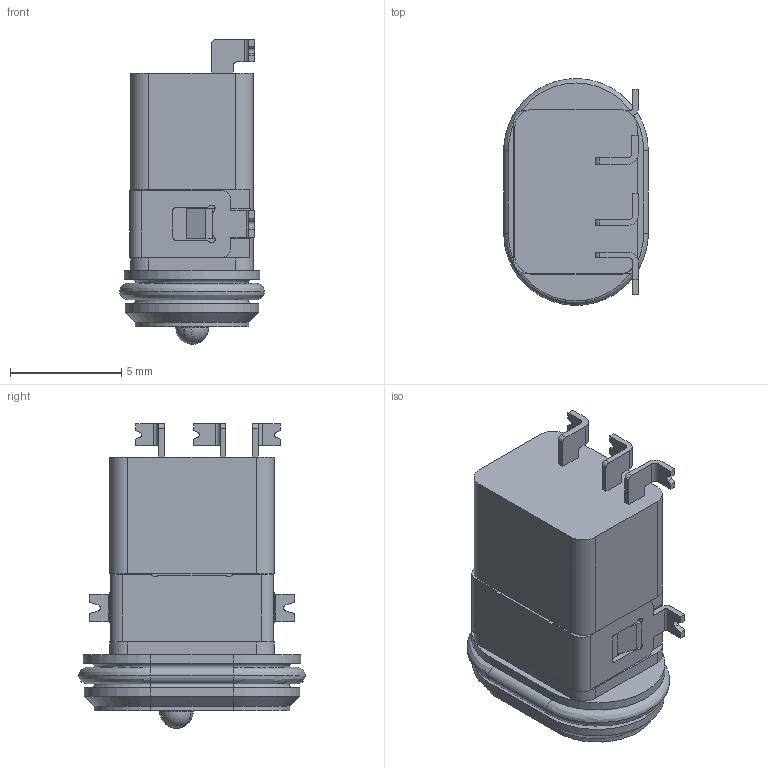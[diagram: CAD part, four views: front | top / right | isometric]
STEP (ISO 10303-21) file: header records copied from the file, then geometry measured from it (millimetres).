
FILE_DESCRIPTION((''),'2;1');
FILE_NAME('ASM0001_ASM','2020-11-04T',('Administrator'),(''),'PRO/ENGINEER BY PARAMETRIC TECHNOLOGY CORPORATION, 2010280','PRO/ENGINEER BY PARAMETRIC TECHNOLOGY CORPORATION, 2010280','');
FILE_SCHEMA(('CONFIG_CONTROL_DESIGN'));
Length unit declared in the file: millimetre
Products named in the file (3): 1DC-067AZP-207_0629; 1DC-067AZG-695Z; ASM0001_ASM
Assembly tree (2 placements, depth 2):
  ASM0001_ASM
    1DC-067AZP-207_0629
    1DC-067AZG-695Z
Bounding box: 6.5 x 10.19 x 13.7 mm (x, y, z)
Volume: 376.5 mm3; surface area: 743 mm2
Topology: 2 solids, 2 shells, 249 faces, 695 edges, 449 vertices
Faces by surface type: plane 138, cylinder 85, sphere 10, torus 8, cone 4, bspline 4
Entity records: 8226 total; most frequent: CARTESIAN_POINT 1676, ORIENTED_EDGE 1372, DIRECTION 1355, EDGE_CURVE 686, AXIS2_PLACEMENT_3D 457, VERTEX_POINT 449, VECTOR 441, LINE 441
